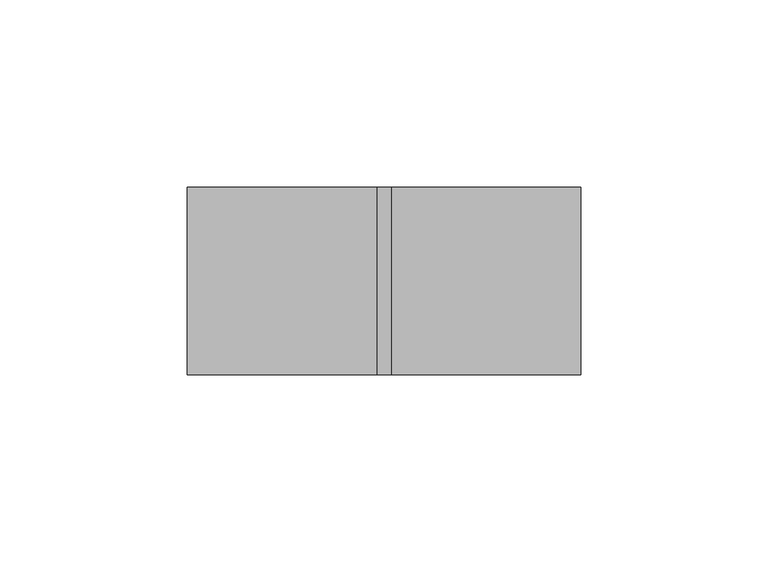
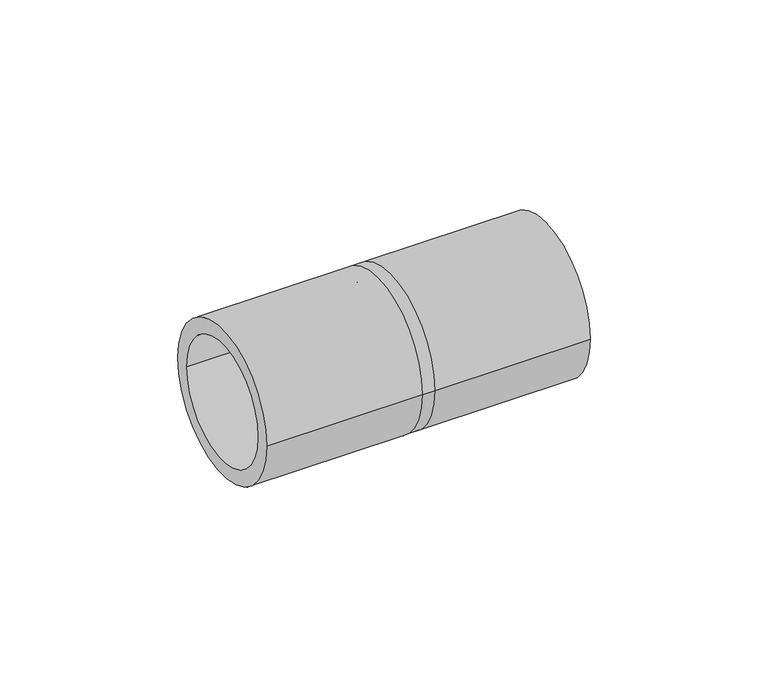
"""IFC4 building model written with IfcOpenShell, lengths in millimetres: cable carrier fitting geometry, КНС_МуфтаТрубаТруба_IP67_DKC : Коробка."""

from ifc_helpers import new_model, si_unit, frame, origin, place, context, project, spatial, polyline, circle_curve, source, transform, mapped, element, save
from ifc_brep_helpers import plane_surface, cylinder_surface, revolved_surface, advanced_brep


def cable_carrier_fitting_f1db5e13(model_context):
    return source(origin(), model_context, "Body", "AdvancedBrep", [
        advanced_brep(
        [(-52.5, -25.0, 0.0), (-52.5, 25.0, 0.0), (-52.5, -20.0, 0.0), (-52.5, 20.0, 0.0), (-2.0, 20.0, 0.0), (-2.0, -20.0, 0.0), (-2.0, 25.0, 0.0), (-2.0, -25.0, 0.0), (2.0, -20.0, 0.0), (2.0, 20.0, 0.0), (2.0, -25.0, 0.0), (2.0, 25.0, 0.0), (52.5, -25.0, 0.0), (52.5, 25.0, 0.0), (52.5, -20.0, 0.0), (52.5, 20.0, 0.0)],
        [
            (0, 1, circle_curve(frame((-52.5, 0.0, 0.0), z_axis=(-1.0, 0.0, 0.0), x_axis=(0.0, 1.0, 0.0)), 25.0)),
            (1, 0, circle_curve(frame((-52.5, 0.0, 0.0), z_axis=(-1.0, 0.0, 0.0), x_axis=(0.0, 1.0, 0.0)), 25.0)),
            (2, 3, circle_curve(frame((-52.5, 0.0, 0.0), z_axis=(1.0, 0.0, 0.0), x_axis=(0.0, 1.0, 0.0)), 20.0)),
            (3, 2, circle_curve(frame((-52.5, 0.0, 0.0), z_axis=(1.0, 0.0, 0.0), x_axis=(0.0, 1.0, 0.0)), 20.0)),
            (3, 4),
            (4, 5, circle_curve(frame((-2.0, 0.0, 0.0), z_axis=(1.0, 0.0, 0.0), x_axis=(0.0, 1.0, 0.0)), 20.0)),
            (5, 2),
            (5, 4, circle_curve(frame((-2.0, 0.0, 0.0), z_axis=(1.0, 0.0, 0.0), x_axis=(0.0, 1.0, 0.0)), 20.0)),
            (1, 6),
            (6, 7, circle_curve(frame((-2.0, 0.0, 0.0), z_axis=(-1.0, 0.0, 0.0), x_axis=(0.0, 1.0, 0.0)), 25.0)),
            (7, 0),
            (7, 6, circle_curve(frame((-2.0, 0.0, 0.0), z_axis=(-1.0, 0.0, 0.0), x_axis=(0.0, 1.0, 0.0)), 25.0)),
            (5, 8),
            (8, 9, circle_curve(frame((2.0, 0.0, 0.0), z_axis=(1.0, 0.0, 0.0), x_axis=(0.0, 1.0, 0.0)), 20.0)),
            (9, 4),
            (9, 8, circle_curve(frame((2.0, 0.0, 0.0), z_axis=(1.0, 0.0, 0.0), x_axis=(0.0, 1.0, 0.0)), 20.0)),
            (7, 10),
            (10, 11, circle_curve(frame((2.0, 0.0, 0.0), z_axis=(-1.0, 0.0, 0.0), x_axis=(0.0, 1.0, 0.0)), 25.0)),
            (11, 6),
            (11, 10, circle_curve(frame((2.0, 0.0, 0.0), z_axis=(-1.0, 0.0, 0.0), x_axis=(0.0, 1.0, 0.0)), 25.0)),
            (12, 13, circle_curve(frame((52.5, 0.0, 0.0), z_axis=(1.0, 0.0, 0.0), x_axis=(0.0, 1.0, 0.0)), 25.0)),
            (13, 12, circle_curve(frame((52.5, 0.0, 0.0), z_axis=(1.0, 0.0, 0.0), x_axis=(0.0, 1.0, 0.0)), 25.0)),
            (14, 15, circle_curve(frame((52.5, 0.0, 0.0), z_axis=(-1.0, 0.0, 0.0), x_axis=(0.0, 1.0, 0.0)), 20.0)),
            (15, 14, circle_curve(frame((52.5, 0.0, 0.0), z_axis=(-1.0, 0.0, 0.0), x_axis=(0.0, 1.0, 0.0)), 20.0)),
            (13, 11),
            (10, 12),
            (15, 9),
            (8, 14),
        ],
        [
            plane_surface(frame((-52.5, 0.0, 0.0), z_axis=(-1.0, 0.0, 0.0), x_axis=(0.0, 0.0, 1.0))),
            revolved_surface(polyline([(-2.0, 20.0, 0.0), (-52.5, 20.0, 0.0)]), (-52.5, 0.0, 0.0), (1.0, 0.0, 0.0)),
            cylinder_surface(frame((-52.5, 0.0, 0.0), z_axis=(-1.0, 0.0, 0.0), x_axis=(0.0, 1.0, 0.0)), 25.0),
            revolved_surface(polyline([(2.0, 20.0, 0.0), (-2.0, 20.0, 0.0)]), (-2.0, 0.0, 0.0), (1.0, 0.0, 0.0)),
            cylinder_surface(frame((-2.0, 0.0, 0.0), z_axis=(-1.0, 0.0, 0.0), x_axis=(0.0, 1.0, 0.0)), 25.0),
            plane_surface(frame((52.5, 0.0, 0.0), z_axis=(1.0, 0.0, 0.0), x_axis=(0.0, 0.0, 1.0))),
            cylinder_surface(frame((2.0, 0.0, 0.0), z_axis=(-1.0, 0.0, 0.0), x_axis=(0.0, 1.0, 0.0)), 25.0),
            revolved_surface(polyline([(52.5, 20.0, 0.0), (2.0, 20.0, 0.0)]), (2.0, 0.0, 0.0), (1.0, 0.0, 0.0)),
        ],
        [
            (0, [[1, 2], [3, 4]]),
            (1, [[-4, 5, 6, 7]]),
            (1, [[-3, -7, 8, -5]]),
            (2, [[-2, 9, 10, 11]]),
            (2, [[-1, -11, 12, -9]]),
            (3, [[13, 14, 15, -8]]),
            (3, [[-13, -6, -15, 16]]),
            (4, [[17, 18, 19, -12]]),
            (4, [[-17, -10, -19, 20]]),
            (5, [[21, 22], [23, 24]]),
            (6, [[-22, 25, -18, 26]]),
            (6, [[-21, -26, -20, -25]]),
            (7, [[-24, 27, -14, 28]]),
            (7, [[-23, -28, -16, -27]]),
        ],
    ),
    ])


if __name__ == "__main__":
    model = new_model("IFC4")
    model_context = context("Model", 3, world=origin())
    ifc_project = project(units=[si_unit("LENGTHUNIT", "METRE", prefix="MILLI")], contexts=[model_context])
    site = spatial("IfcSite", under=ifc_project)
    building = spatial("IfcBuilding", under=site)
    placement = place(None, origin())
    cable_carrier_fitting_shape = cable_carrier_fitting_f1db5e13(model_context)
    element("IfcCableCarrierFitting", 1, ObjectType="КНС_МуфтаТрубаТруба_IP67_DKC : Коробка", at=placement, inside=building, context=model_context, shape_type="MappedRepresentation", body=[
        mapped(cable_carrier_fitting_shape, transform((0.0, 0.0, 0.0), x_axis=(1.0, 0.0, 0.0), y_axis=(0.0, 1.0, 0.0), z_axis=(0.0, 0.0, 1.0))),
    ])
    save(model, "model.ifc")
